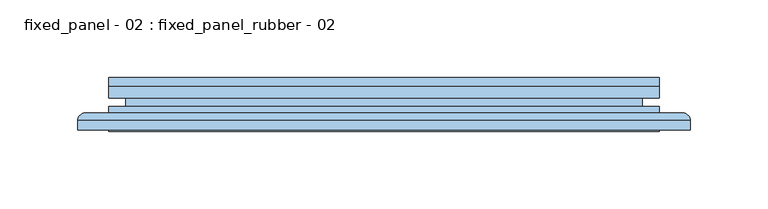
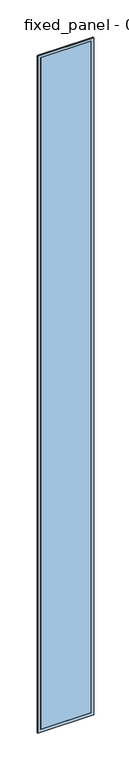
"""IFC4 building model written with IfcOpenShell, lengths in millimetres: window geometry, fixed_panel - 02 : fixed_panel_rubber - 02."""

from ifc_helpers import new_model, si_unit, frame, origin, origin_with_axes, place, context, project, spatial, polyline, ellipse_curve, outline, extrude, faceted_brep, source, transform, mapped, element, save
from ifc_brep_helpers import plane_surface, cylinder_surface, advanced_brep


def fixed_panel_02_fixed_panel_rubber_02_f751245b(model_context):
    return source(origin(), model_context, "Body", "SolidModel", [
        advanced_brep(
        [(177.5062469, -27.9878211, 5000.0), (182.5062469, -22.9878211, 5005.0), (182.5062469, -22.9878211, -5.0), (177.5062469, -27.9878211, 0.0), (192.5039249, -22.9878211, -14.9976779), (-192.5039249, -22.9878211, -14.9976779), (-192.5039249, -22.9878211, 5014.9976779), (192.5039249, -22.9878211, 5014.9976779), (-182.5062469, -22.9878211, 5005.0), (-182.5062469, -22.9878211, -5.0), (-177.5062469, -27.9878211, 0.0), (177.5062469, -34.0, 5000.0), (177.5062469, -34.0, 0.0), (-177.5062469, -34.0, 0.0), (197.4996004, -34.0, 5019.9933535), (-197.4996004, -34.0, 5019.9933535), (-197.4996004, -34.0, -19.9933535), (197.4996004, -34.0, -19.9933535), (-177.5062469, -34.0, 5000.0), (197.4996004, -27.9834967, 5019.9933535), (197.4996004, -27.9834967, -19.9933535), (-197.4996004, -27.9834967, -19.9933535), (-177.5062469, -27.9878211, 5000.0), (-197.4996004, -27.9834967, 5019.9933535)],
        [
            (0, 1, ellipse_curve(frame((182.5062469, -27.9878211, 5005.0), z_axis=(0.7071067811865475, 0.0, -0.7071067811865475), x_axis=(0.7071067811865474, 0.0, 0.7071067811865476)), 7.0710678, 5.0)),
            (1, 2),
            (2, 3, ellipse_curve(frame((182.5062469, -27.9878211, -5.0), z_axis=(0.7071067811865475, 0.0, 0.7071067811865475), x_axis=(-0.7071067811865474, 0.0, 0.7071067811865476)), 7.0710678, 5.0)),
            (3, 0),
            (4, 5),
            (5, 6),
            (6, 7),
            (7, 4),
            (1, 8),
            (8, 9),
            (9, 2),
            (9, 10, ellipse_curve(frame((-182.5062469, -27.9878211, -5.0), z_axis=(0.7071067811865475, 0.0, -0.7071067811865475), x_axis=(0.7071067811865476, 0.0, 0.7071067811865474)), 7.0710678, 5.0)),
            (10, 3),
            (11, 0),
            (3, 12),
            (12, 11),
            (10, 13),
            (13, 12),
            (14, 15),
            (15, 16),
            (16, 17),
            (17, 14),
            (13, 18),
            (18, 11),
            (19, 14),
            (17, 20),
            (20, 19),
            (16, 21),
            (21, 20),
            (7, 19, ellipse_curve(frame((192.5039249, -27.9834967, 5014.9976779), z_axis=(0.7071067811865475, 0.0, -0.7071067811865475), x_axis=(0.7071067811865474, 0.0, 0.7071067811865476)), 7.0649521, 4.9956756)),
            (20, 4, ellipse_curve(frame((192.5039249, -27.9834967, -14.9976779), z_axis=(0.7071067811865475, 0.0, 0.7071067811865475), x_axis=(-0.7071067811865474, 0.0, 0.7071067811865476)), 7.0649521, 4.9956756)),
            (21, 5, ellipse_curve(frame((-192.5039249, -27.9834967, -14.9976779), z_axis=(0.7071067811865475, 0.0, -0.7071067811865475), x_axis=(0.7071067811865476, 0.0, 0.7071067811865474)), 7.0649521, 4.9956756)),
            (8, 22, ellipse_curve(frame((-182.5062469, -27.9878211, 5005.0), z_axis=(-0.7071067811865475, 0.0, -0.7071067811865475), x_axis=(0.7071067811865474, 0.0, -0.7071067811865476)), 7.0710678, 5.0)),
            (22, 10),
            (22, 18),
            (15, 23),
            (23, 21),
            (23, 6, ellipse_curve(frame((-192.5039249, -27.9834967, 5014.9976779), z_axis=(-0.7071067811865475, 0.0, -0.7071067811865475), x_axis=(0.7071067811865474, 0.0, -0.7071067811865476)), 7.0649521, 4.9956756)),
            (0, 22),
            (19, 23),
        ],
        [
            cylinder_surface(frame((182.5062469, -27.9878211, 5000.0), z_axis=(0.0, 0.0, 1.0), x_axis=(1.0, 0.0, 0.0)), 5.0),
            plane_surface(frame((-192.5039249, -22.9878211, 5014.9976779), z_axis=(0.0, 1.0, 0.0), x_axis=(1.0, 0.0, 0.0))),
            cylinder_surface(frame((177.5062469, -27.9878211, -5.0), z_axis=(1.0, 0.0, 0.0), x_axis=(0.0, 0.0, -1.0)), 5.0),
            plane_surface(frame((177.5062469, -27.9878211, 5000.0), z_axis=(-1.0, 0.0, 0.0), x_axis=(0.0, 0.0, -1.0))),
            plane_surface(frame((177.5062469, -27.9878211, 0.0), z_axis=(0.0, 0.0, 1.0), x_axis=(-1.0, 0.0, 0.0))),
            plane_surface(frame((-177.5062469, -34.0, 5000.0), z_axis=(0.0, -1.0, 0.0), x_axis=(1.0, 0.0, 0.0))),
            plane_surface(frame((197.4996004, -34.0, 5019.9933535), z_axis=(1.0, 0.0, 0.0), x_axis=(0.0, 0.0, -1.0))),
            plane_surface(frame((197.4996004, -34.0, -19.9933535), z_axis=(0.0, 0.0, -1.0), x_axis=(-1.0, 0.0, 0.0))),
            cylinder_surface(frame((192.5039249, -27.9834967, 5000.0), z_axis=(0.0, 0.0, 1.0), x_axis=(1.0, 0.0, 0.0)), 4.9956756),
            cylinder_surface(frame((177.5062469, -27.9834967, -14.9976779), z_axis=(1.0, 0.0, 0.0), x_axis=(0.0, 0.0, -1.0)), 4.9956756),
            cylinder_surface(frame((-182.5062469, -27.9878211, 0.0), z_axis=(0.0, 0.0, -1.0), x_axis=(-1.0, 0.0, 0.0)), 5.0),
            plane_surface(frame((-177.5062469, -27.9878211, 0.0), z_axis=(1.0, 0.0, 0.0), x_axis=(0.0, 0.0, 1.0))),
            plane_surface(frame((-197.4996004, -34.0, -19.9933535), z_axis=(-1.0, 0.0, 0.0), x_axis=(0.0, 0.0, 1.0))),
            cylinder_surface(frame((-192.5039249, -27.9834967, 0.0), z_axis=(0.0, 0.0, -1.0), x_axis=(-1.0, 0.0, 0.0)), 4.9956756),
            cylinder_surface(frame((-177.5062469, -27.9878211, 5005.0), z_axis=(-1.0, 0.0, 0.0), x_axis=(0.0, 0.0, 1.0)), 5.0),
            plane_surface(frame((-177.5062469, -27.9878211, 5000.0), z_axis=(0.0, 0.0, -1.0), x_axis=(1.0, 0.0, 0.0))),
            plane_surface(frame((-197.4996004, -34.0, 5019.9933535), z_axis=(0.0, 0.0, 1.0), x_axis=(1.0, 0.0, 0.0))),
            cylinder_surface(frame((-177.5062469, -27.9834967, 5014.9976779), z_axis=(-1.0, 0.0, 0.0), x_axis=(0.0, 0.0, 1.0)), 4.9956756),
        ],
        [
            (0, [[1, 2, 3, 4]]),
            (1, [[5, 6, 7, 8], [9, 10, 11, -2]]),
            (2, [[-3, -11, 12, 13]]),
            (3, [[14, -4, 15, 16]]),
            (4, [[-15, -13, 17, 18]]),
            (5, [[19, 20, 21, 22], [-18, 23, 24, -16]]),
            (6, [[25, -22, 26, 27]]),
            (7, [[-26, -21, 28, 29]]),
            (8, [[30, -27, 31, -8]]),
            (9, [[-31, -29, 32, -5]]),
            (10, [[-12, -10, 33, 34]]),
            (11, [[-17, -34, 35, -23]]),
            (12, [[-28, -20, 36, 37]]),
            (13, [[-32, -37, 38, -6]]),
            (14, [[-33, -9, -1, 39]]),
            (15, [[-35, -39, -14, -24]]),
            (16, [[-36, -19, -25, 40]]),
            (17, [[-38, -40, -30, -7]]),
        ],
    ),
        faceted_brep([(151.5062469, -26.0, 4974.0), (151.5062469, -6.0, 4974.0), (151.5062469, -6.0, 26.0), (151.5062469, -26.0, 26.0), (177.5062469, -6.0, 0.0), (-177.5062469, -6.0, 0.0), (-177.5062469, -6.0, 5000.0), (177.5062469, -6.0, 5000.0), (-151.5062469, -6.0, 4974.0), (-151.5062469, -6.0, 26.0), (-151.5062469, -26.0, 26.0), (177.5062469, -26.0, 5000.0), (-177.5062469, -26.0, 5000.0), (-177.5062469, -26.0, 0.0), (177.5062469, -26.0, 0.0), (-151.5062469, -26.0, 4974.0), (177.5062469, -18.8, 5000.0), (177.5062469, -18.8, 0.0), (-177.5062469, -18.8, 0.0), (-177.5062469, -18.8, 5000.0), (166.5062469, -18.8, 4989.0), (-166.5062469, -18.8, 4989.0), (-166.5062469, -18.8, 11.0), (166.5062469, -18.8, 11.0), (166.5062469, -13.2, 4989.0), (166.5062469, -13.2, 11.0), (-166.5062469, -13.2, 11.0), (177.5062469, -13.2, 5000.0), (-177.5062469, -13.2, 5000.0), (-177.5062469, -13.2, 0.0), (177.5062469, -13.2, 0.0), (-166.5062469, -13.2, 4989.0)], [[[0, 1, 2, 3]], [[4, 5, 6, 7], [1, 8, 9, 2]], [[3, 2, 9, 10]], [[11, 12, 13, 14], [3, 10, 15, 0]], [[16, 11, 14, 17]], [[17, 14, 13, 18]], [[17, 18, 19, 16], [20, 21, 22, 23]], [[24, 20, 23, 25]], [[25, 23, 22, 26]], [[27, 28, 29, 30], [25, 26, 31, 24]], [[7, 27, 30, 4]], [[4, 30, 29, 5]], [[10, 9, 8, 15]], [[18, 13, 12, 19]], [[26, 22, 21, 31]], [[5, 29, 28, 6]], [[15, 8, 1, 0]], [[19, 12, 11, 16]], [[31, 21, 20, 24]], [[6, 28, 27, 7]]]),
        extrude(outline(polyline([(177.5062469, -34.0), (-177.5062469, -34.0), (-177.5062469, -26.0), (177.5062469, -26.0), (177.5062469, -34.0)])), origin_with_axes(), (0.0, 0.0, 1.0), 5000.0),
        extrude(outline(polyline([(177.5062469, -6.0), (-177.5062469, -6.0), (-177.5062469, 0.0), (177.5062469, 0.0), (177.5062469, -6.0)])), origin_with_axes(), (0.0, 0.0, 1.0), 5000.0),
    ])


if __name__ == "__main__":
    model = new_model("IFC4")
    model_context = context("Model", 3, world=origin())
    ifc_project = project(units=[si_unit("LENGTHUNIT", "METRE", prefix="MILLI")], contexts=[model_context])
    site = spatial("IfcSite", under=ifc_project)
    building = spatial("IfcBuilding", under=site)
    placement = place(None, origin())
    fixed_panel_02_fixed_panel_rubber_02_shape = fixed_panel_02_fixed_panel_rubber_02_f751245b(model_context)
    element("IfcWindow", 1, ObjectType="fixed_panel - 02 : fixed_panel_rubber - 02", at=placement, inside=building, context=model_context, shape_type="MappedRepresentation", body=[
        mapped(fixed_panel_02_fixed_panel_rubber_02_shape, transform((0.0, 0.0, 0.0), x_axis=(1.0, 0.0, 0.0), y_axis=(0.0, 1.0, 0.0), z_axis=(0.0, 0.0, 1.0))),
    ])
    save(model, "model.ifc")
